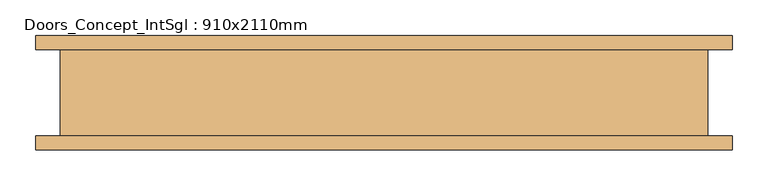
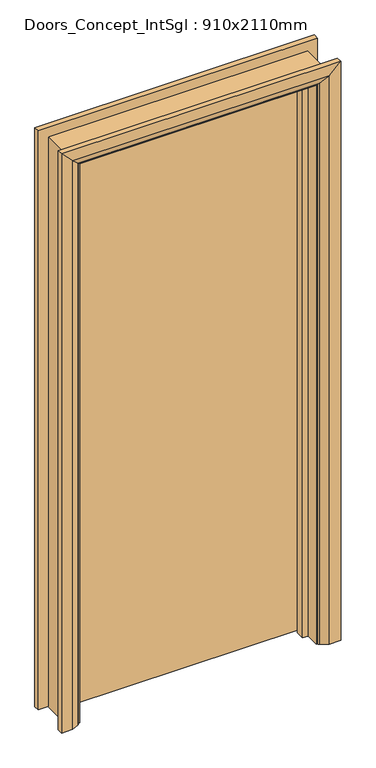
"""IFC4 building model written with IfcOpenShell, lengths in millimetres: door geometry, Doors_Concept_IntSgl : 910x2110mm."""

from ifc_helpers import new_model, si_unit, frame, origin, place, context, project, spatial, polyline, circle_curve, ellipse_curve, outline, extrude, faceted_brep, source, transform, mapped, element, save
from ifc_brep_helpers import plane_surface, cylinder_surface, advanced_brep


def doors_concept_intsgl_910x2110mm_32050250(model_context):
    return source(origin(), model_context, "Body", "SolidModel", [
        extrude(outline(polyline([(413.0, 22.75), (-413.0, 22.75), (-413.0, 60.75), (413.0, 60.75), (413.0, 22.75)])), frame((0.0, 0.0, 8.0), z_axis=(0.0, 0.0, 1.0), x_axis=(1.0, 0.0, 0.0)), (0.0, 0.0, 1.0), 2060.0),
        advanced_brep(
        [(490.0, 80.75, 0.0), (490.0, 60.75, 0.0), (420.0, 60.75, 0.0), (424.0, 66.75, 0.0), (450.0, 80.75, 0.0), (490.0, 80.75, 2145.0), (490.0, 60.75, 2145.0), (-490.0, 60.75, 2145.0), (-490.0, 60.75, 0.0), (-420.0, 60.75, 0.0), (-420.0, 60.75, 2075.0), (420.0, 60.75, 2075.0), (424.0, 66.75, 2079.0), (450.0, 80.75, 2105.0), (-450.0, 80.75, 2105.0), (-450.0, 80.75, 0.0), (-490.0, 80.75, 0.0), (-490.0, 80.75, 2145.0), (-424.0, 66.75, 0.0), (-424.0, 66.75, 2079.0)],
        [
            (0, 1),
            (1, 2),
            (2, 3, circle_curve(frame((428.0, 59.75, 0.0), z_axis=(0.0, 0.0, -1.0), x_axis=(1.0, 0.0, 0.0)), 8.0622577)),
            (3, 4),
            (4, 0),
            (0, 5),
            (5, 6),
            (6, 1),
            (6, 7),
            (7, 8),
            (8, 9),
            (9, 10),
            (10, 11),
            (11, 2),
            (11, 12, ellipse_curve(frame((428.0, 59.75, 2083.0), z_axis=(0.7071067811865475, 0.0, -0.7071067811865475), x_axis=(-0.7071067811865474, 0.0, -0.7071067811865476)), 11.4017543, 8.0622577)),
            (12, 3),
            (12, 13),
            (13, 4),
            (13, 14),
            (14, 15),
            (15, 16),
            (16, 17),
            (17, 5),
            (7, 17),
            (16, 8),
            (15, 18),
            (18, 9, circle_curve(frame((-428.0, 59.75, 0.0), z_axis=(0.0, 0.0, -1.0), x_axis=(-1.0, 0.0, 0.0)), 8.0622577)),
            (19, 10, ellipse_curve(frame((-428.0, 59.75, 2083.0), z_axis=(-0.7071067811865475, 0.0, -0.7071067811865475), x_axis=(-0.7071067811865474, 0.0, 0.7071067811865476)), 11.4017543, 8.0622577)),
            (18, 19),
            (14, 19),
            (19, 12),
        ],
        [
            plane_surface(frame((420.0, 60.75, 0.0), z_axis=(0.0, 0.0, -1.0), x_axis=(0.0, -1.0, 0.0))),
            plane_surface(frame((490.0, 80.75, 0.0), z_axis=(1.0, 0.0, 0.0), x_axis=(0.0, 0.0, 1.0))),
            plane_surface(frame((490.0, 60.75, 0.0), z_axis=(0.0, -1.0, 0.0), x_axis=(0.0, 0.0, 1.0))),
            cylinder_surface(frame((428.0, 59.75, 0.0), z_axis=(0.0, 0.0, -1.0), x_axis=(1.0, 0.0, 0.0)), 8.0622577),
            plane_surface(frame((424.0, 66.75, 0.0), z_axis=(-0.4740998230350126, 0.880471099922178, 0.0), x_axis=(0.0, 0.0, 1.0))),
            plane_surface(frame((450.0, 80.75, 0.0), z_axis=(0.0, 1.0, 0.0), x_axis=(0.0, 0.0, 1.0))),
            plane_surface(frame((-490.0, 80.75, 2145.0), z_axis=(-1.0, 0.0, 0.0), x_axis=(0.0, 0.0, -1.0))),
            plane_surface(frame((-420.0, 60.75, 0.0), z_axis=(0.0, 0.0, -1.0), x_axis=(0.0, -1.0, 0.0))),
            cylinder_surface(frame((-428.0, 59.75, 2075.0), z_axis=(0.0, 0.0, 1.0), x_axis=(-1.0, 0.0, 0.0)), 8.0622577),
            plane_surface(frame((-424.0, 66.75, 2079.0), z_axis=(0.47409982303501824, 0.8804710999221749, 0.0), x_axis=(0.0, 0.0, -1.0))),
            plane_surface(frame((490.0, 80.75, 2145.0), z_axis=(0.0, 0.0, 1.0), x_axis=(-1.0, 0.0, 0.0))),
            cylinder_surface(frame((420.0, 59.75, 2083.0), z_axis=(1.0, 0.0, 0.0), x_axis=(0.0, 0.0, 1.0)), 8.0622577),
            plane_surface(frame((424.0, 66.75, 2079.0), z_axis=(0.0, 0.8804710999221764, -0.4740998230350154), x_axis=(-1.0, 0.0, 0.0))),
        ],
        [
            (0, [[1, 2, 3, 4, 5]]),
            (1, [[-1, 6, 7, 8]]),
            (2, [[-2, -8, 9, 10, 11, 12, 13, 14]]),
            (3, [[-3, -14, 15, 16]]),
            (4, [[-4, -16, 17, 18]]),
            (5, [[-5, -18, 19, 20, 21, 22, 23, -6]]),
            (6, [[24, -22, 25, -10]]),
            (7, [[-21, 26, 27, -11, -25]]),
            (8, [[28, -12, -27, 29]]),
            (9, [[30, -29, -26, -20]]),
            (10, [[-7, -23, -24, -9]]),
            (11, [[-15, -13, -28, 31]]),
            (12, [[-17, -31, -30, -19]]),
        ],
    ),
        extrude(outline(polyline([(0.0, -415.0), (0.0, -396.0), (2051.0, -396.0), (2051.0, 396.0), (0.0, 396.0), (0.0, 415.0), (2070.0, 415.0), (2070.0, -415.0), (0.0, -415.0)])), frame((0.0, -11.25, 0.0), z_axis=(0.0, 1.0, 0.0), x_axis=(0.0, 0.0, 1.0)), (0.0, 0.0, 1.0), 32.0),
        advanced_brep(
        [(-490.0, -80.75, 0.0), (-490.0, -60.75, 0.0), (-420.0, -60.75, 0.0), (-424.0, -66.75, 0.0), (-450.0, -80.75, 0.0), (-490.0, -80.75, 2145.0), (-490.0, -60.75, 2145.0), (-420.0, -60.75, 2075.0), (-424.0, -66.75, 2079.0), (-450.0, -80.75, 2105.0), (490.0, -80.75, 0.0), (450.0, -80.75, 0.0), (424.0, -66.75, 0.0), (420.0, -60.75, 0.0), (490.0, -60.75, 0.0), (490.0, -80.75, 2145.0), (450.0, -80.75, 2105.0), (424.0, -66.75, 2079.0), (420.0, -60.75, 2075.0), (490.0, -60.75, 2145.0)],
        [
            (0, 1),
            (1, 2),
            (2, 3, circle_curve(frame((-428.0, -59.75, 0.0), z_axis=(0.0, 0.0, -1.0), x_axis=(-1.0, 0.0, 0.0)), 8.0622577)),
            (3, 4),
            (4, 0),
            (0, 5),
            (5, 6),
            (6, 1),
            (6, 7),
            (7, 2),
            (7, 8, ellipse_curve(frame((-428.0, -59.75, 2083.0), z_axis=(-0.7071067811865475, 0.0, -0.7071067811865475), x_axis=(0.7071067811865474, 0.0, -0.7071067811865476)), 11.4017543, 8.0622577)),
            (8, 3),
            (8, 9),
            (9, 4),
            (9, 5),
            (10, 11),
            (11, 12),
            (12, 13, circle_curve(frame((428.0, -59.75, 0.0), z_axis=(0.0, 0.0, -1.0), x_axis=(1.0, 0.0, 0.0)), 8.0622577)),
            (13, 14),
            (14, 10),
            (15, 16),
            (16, 11),
            (10, 15),
            (16, 17),
            (17, 12),
            (17, 18, ellipse_curve(frame((428.0, -59.75, 2083.0), z_axis=(0.7071067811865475, 0.0, -0.7071067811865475), x_axis=(0.7071067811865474, 0.0, 0.7071067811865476)), 11.4017543, 8.0622577)),
            (18, 13),
            (18, 19),
            (19, 14),
            (19, 15),
            (5, 15),
            (19, 6),
            (18, 7),
            (17, 8),
            (16, 9),
        ],
        [
            plane_surface(frame((-420.0, -133.5510989, 0.0), z_axis=(0.0, 0.0, -1.0), x_axis=(1.0, 0.0, 0.0))),
            plane_surface(frame((-490.0, -80.75, 0.0), z_axis=(-1.0, 0.0, 0.0), x_axis=(0.0, 0.0, 1.0))),
            plane_surface(frame((-490.0, -60.75, 0.0), z_axis=(0.0, 1.0, 0.0), x_axis=(0.0, 0.0, 1.0))),
            cylinder_surface(frame((-428.0, -59.75, 0.0), z_axis=(0.0, 0.0, -1.0), x_axis=(-1.0, 0.0, 0.0)), 8.0622577),
            plane_surface(frame((-424.0, -66.75, 0.0), z_axis=(0.4740998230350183, -0.8804710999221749, 0.0), x_axis=(0.0, 0.0, 1.0))),
            plane_surface(frame((-450.0, -80.75, 0.0), z_axis=(0.0, -1.0, 0.0), x_axis=(0.0, 0.0, 1.0))),
            plane_surface(frame((420.0, -133.5510989, 0.0), z_axis=(0.0, 0.0, -1.0), x_axis=(-1.0, 0.0, 0.0))),
            plane_surface(frame((450.0, -80.75, 2105.0), z_axis=(0.0, -1.0, 0.0), x_axis=(0.0, 0.0, -1.0))),
            plane_surface(frame((424.0, -66.75, 2079.0), z_axis=(-0.4740998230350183, -0.8804710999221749, 0.0), x_axis=(0.0, 0.0, -1.0))),
            cylinder_surface(frame((428.0, -59.75, 2075.0), z_axis=(0.0, 0.0, 1.0), x_axis=(1.0, 0.0, 0.0)), 8.0622577),
            plane_surface(frame((490.0, -60.75, 2145.0), z_axis=(0.0, 1.0, 0.0), x_axis=(0.0, 0.0, -1.0))),
            plane_surface(frame((490.0, -80.75, 2145.0), z_axis=(1.0, 0.0, 0.0), x_axis=(0.0, 0.0, -1.0))),
            plane_surface(frame((-490.0, -80.75, 2145.0), z_axis=(0.0, 0.0, 1.0), x_axis=(1.0, 0.0, 0.0))),
            plane_surface(frame((-490.0, -60.75, 2145.0), z_axis=(0.0, 1.0, 0.0), x_axis=(1.0, 0.0, 0.0))),
            cylinder_surface(frame((-420.0, -59.75, 2083.0), z_axis=(-1.0, 0.0, 0.0), x_axis=(0.0, 0.0, 1.0)), 8.0622577),
            plane_surface(frame((-424.0, -66.75, 2079.0), z_axis=(0.0, -0.8804710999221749, -0.4740998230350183), x_axis=(1.0, 0.0, 0.0))),
            plane_surface(frame((-450.0, -80.75, 2105.0), z_axis=(0.0, -1.0, 0.0), x_axis=(1.0, 0.0, 0.0))),
        ],
        [
            (0, [[1, 2, 3, 4, 5]]),
            (1, [[-1, 6, 7, 8]]),
            (2, [[-2, -8, 9, 10]]),
            (3, [[-3, -10, 11, 12]]),
            (4, [[-4, -12, 13, 14]]),
            (5, [[-5, -14, 15, -6]]),
            (6, [[16, 17, 18, 19, 20]]),
            (7, [[21, 22, -16, 23]]),
            (8, [[24, 25, -17, -22]]),
            (9, [[26, 27, -18, -25]]),
            (10, [[28, 29, -19, -27]]),
            (11, [[30, -23, -20, -29]]),
            (12, [[-7, 31, -30, 32]]),
            (13, [[-9, -32, -28, 33]]),
            (14, [[-11, -33, -26, 34]]),
            (15, [[-13, -34, -24, 35]]),
            (16, [[-15, -35, -21, -31]]),
        ],
    ),
        faceted_brep([(-415.0, -60.75, 0.0), (-455.0, -60.75, 0.0), (-455.0, 60.75, 0.0), (-415.0, 60.75, 0.0), (-415.0, -60.75, 2070.0), (-455.0, -60.75, 2110.0), (-455.0, 60.75, 2110.0), (-415.0, 60.75, 2070.0), (415.0, -60.75, 0.0), (415.0, 60.75, 0.0), (455.0, 60.75, 0.0), (455.0, -60.75, 0.0), (415.0, -60.75, 2070.0), (415.0, 60.75, 2070.0), (455.0, 60.75, 2110.0), (455.0, -60.75, 2110.0)], [[[0, 1, 2, 3]], [[1, 0, 4, 5]], [[2, 1, 5, 6]], [[3, 2, 6, 7]], [[0, 3, 7, 4]], [[8, 9, 10, 11]], [[12, 13, 9, 8]], [[13, 14, 10, 9]], [[14, 15, 11, 10]], [[15, 12, 8, 11]], [[5, 4, 12, 15]], [[6, 5, 15, 14]], [[7, 6, 14, 13]], [[4, 7, 13, 12]]]),
    ])


if __name__ == "__main__":
    model = new_model("IFC4")
    model_context = context("Model", 3, world=origin())
    ifc_project = project(units=[si_unit("LENGTHUNIT", "METRE", prefix="MILLI")], contexts=[model_context])
    site = spatial("IfcSite", under=ifc_project)
    building = spatial("IfcBuilding", under=site)
    placement = place(None, origin())
    doors_concept_intsgl_910x2110mm_shape = doors_concept_intsgl_910x2110mm_32050250(model_context)
    element("IfcDoor", 1, ObjectType="Doors_Concept_IntSgl : 910x2110mm", at=placement, inside=building, context=model_context, shape_type="MappedRepresentation", body=[
        mapped(doors_concept_intsgl_910x2110mm_shape, transform((0.0, 0.0, 0.0), x_axis=(1.0, 0.0, 0.0), y_axis=(0.0, 1.0, 0.0), z_axis=(0.0, 0.0, 1.0))),
    ])
    save(model, "model.ifc")
